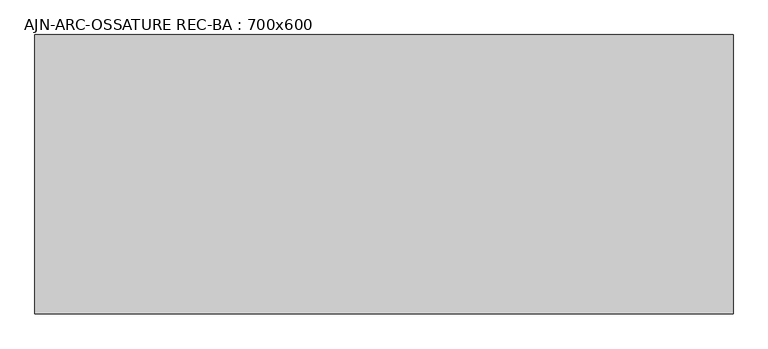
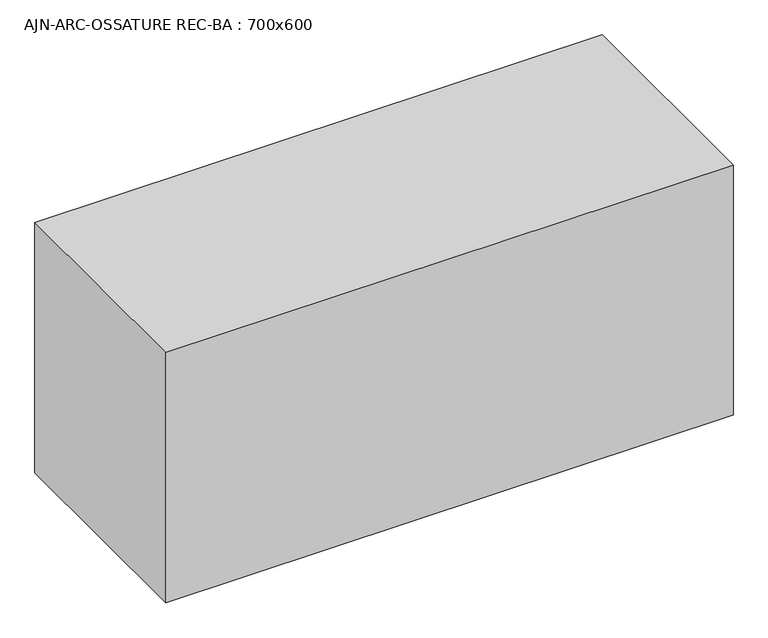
"""IFC4 building model written with IfcOpenShell, lengths in millimetres: beam geometry, AJN-ARC-OSSATURE REC-BA : 700x600."""

from ifc_helpers import new_model, si_unit, frame, origin, place, context, project, spatial, polyline, outline, extrude, source, transform, mapped, element, save


def ajn_arc_ossature_rec_ba_700x600_e883967f(model_context):
    return source(origin(), model_context, "Body", "SweptSolid", [
        extrude(outline(polyline([(600.0, 300.0), (600.0, -300.0), (-900.0, -300.0), (-900.0, 300.0), (600.0, 300.0)])), frame((0.0, 0.0, -350.0), z_axis=(0.0, 0.0, 1.0), x_axis=(1.0, 0.0, 0.0)), (0.0, 0.0, 1.0), 700.0),
    ])


if __name__ == "__main__":
    model = new_model("IFC4")
    model_context = context("Model", 3, world=origin())
    ifc_project = project(units=[si_unit("LENGTHUNIT", "METRE", prefix="MILLI")], contexts=[model_context])
    site = spatial("IfcSite", under=ifc_project)
    building = spatial("IfcBuilding", under=site)
    placement = place(None, origin())
    ajn_arc_ossature_rec_ba_700x600_shape = ajn_arc_ossature_rec_ba_700x600_e883967f(model_context)
    element("IfcBeam", 1, ObjectType="AJN-ARC-OSSATURE REC-BA : 700x600", at=placement, inside=building, context=model_context, shape_type="MappedRepresentation", body=[
        mapped(ajn_arc_ossature_rec_ba_700x600_shape, transform((0.0, 0.0, 0.0), x_axis=(1.0, 0.0, 0.0), y_axis=(0.0, 1.0, 0.0), z_axis=(0.0, 0.0, 1.0))),
    ])
    save(model, "model.ifc")
